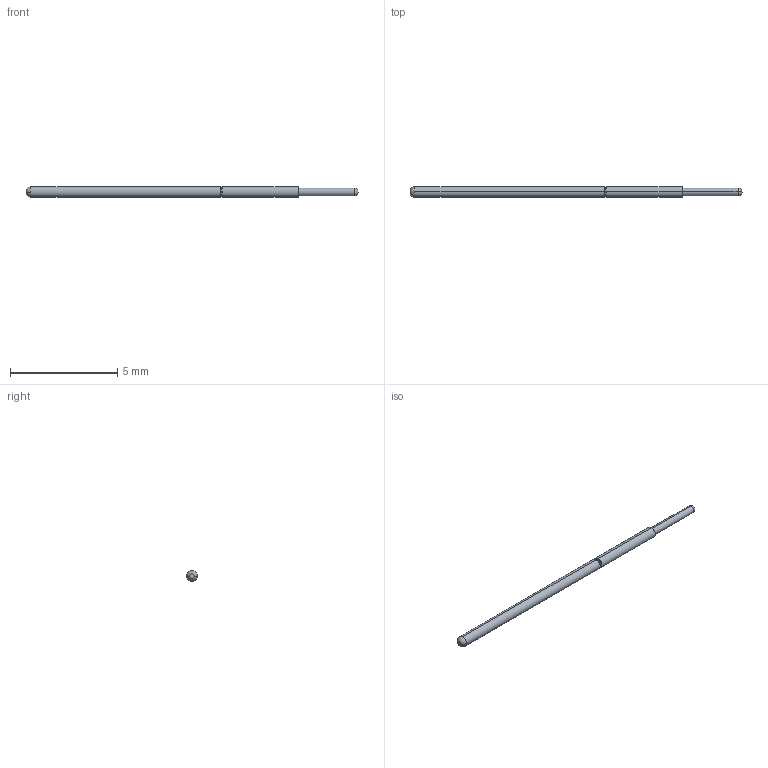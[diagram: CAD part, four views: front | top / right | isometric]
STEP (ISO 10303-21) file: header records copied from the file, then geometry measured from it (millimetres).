
FILE_DESCRIPTION (( 'STEP AP203' ), '1' );
FILE_NAME ('100426-004-942 (REST).STEP', '2023-01-03T09:08:18', ( '' ), ( '' ), 'SwSTEP 2.0', 'SolidWorks 2022', '' );
FILE_SCHEMA (( 'CONFIG_CONTROL_DESIGN' ));
Length unit declared in the file: inch
Products named in the file (1): 100426-004-942 (REST)
Bounding box: 15.49 x 0.51 x 0.51 mm (x, y, z)
Volume: 2.8 mm3; surface area: 23.6 mm2
Topology: 1 solids, 1 shells, 26 faces, 58 edges, 31 vertices
Faces by surface type: cylinder 8, torus 8, sphere 4, cone 4, plane 2
Entity records: 759 total; most frequent: DIRECTION 146, CARTESIAN_POINT 108, ORIENTED_EDGE 104, AXIS2_PLACEMENT_3D 67, EDGE_CURVE 52, CIRCLE 40, VERTEX_POINT 29, EDGE_LOOP 27
